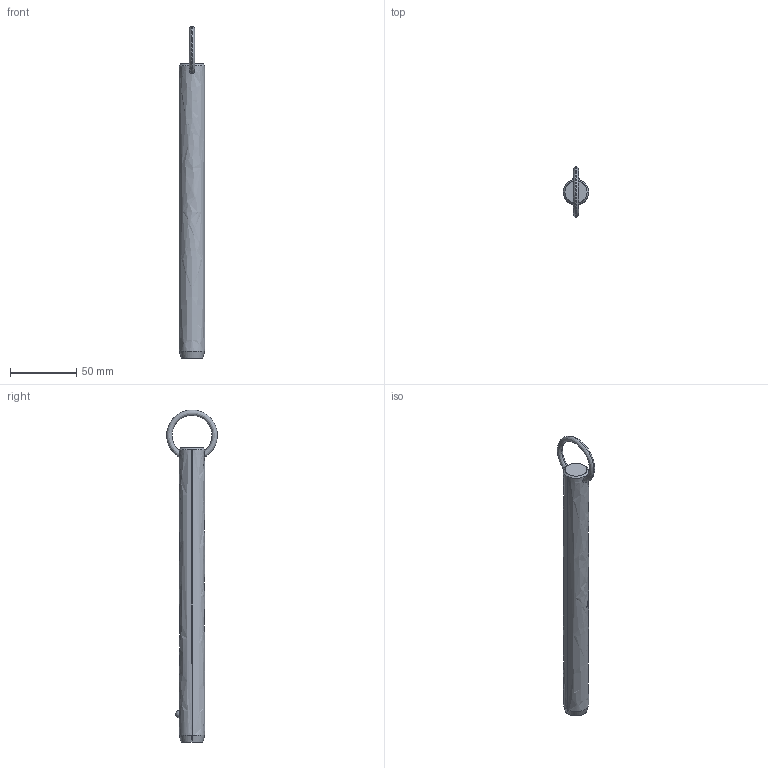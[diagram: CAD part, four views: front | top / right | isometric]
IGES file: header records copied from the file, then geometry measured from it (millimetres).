
Start section: SolidWorks IGES file using analytic representation for surfaces
Global section: file name: C:\Users\liam_\OneDrive\Documents\WORK\Work for WixRoyd\Job Files\J-00019 - Matt Davis CAD Checking\04. CAD Drawings\automotion20190605\P1250.2_v2\P1250.2_v2_20190729_IGES\P1250.075-740.igs; native system: SolidWorks 2017; preprocessor: SolidWorks 2017; author: liam_; date: 190730.000214; units: millimetre
Bounding box: 19 x 38.01 x 249.8 mm (x, y, z)
Surface area: 14736.3 mm2 (no closed solid volume)
Topology: 0 solids, 0 shells, 12 faces, 294 edges, 292 vertices
Faces by surface type: revolution 8, bspline 4
